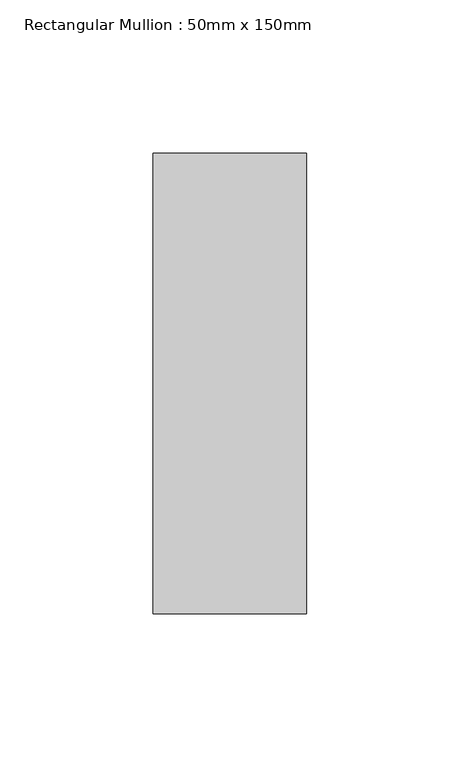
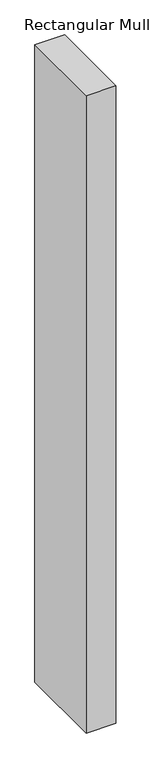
"""IFC4 building model written with IfcOpenShell, lengths in millimetres: member geometry, Rectangular Mullion : 50mm x 150mm."""

from ifc_helpers import new_model, si_unit, frame, origin, place, context, project, spatial, polyline, outline, extrude, source, transform, mapped, element, save


def rectangular_mullion_50mm_x_150mm_56029db9(model_context):
    return source(origin(), model_context, "Body", "SweptSolid", [
        extrude(outline(polyline([(0.0, 75.0), (0.0, -75.0), (-50.0, -75.0), (-50.0, 75.0), (0.0, 75.0)])), frame((0.0, 0.0, -1135.4902365), z_axis=(0.0, 0.0, 1.0), x_axis=(1.0, 0.0, 0.0)), (0.0, 0.0, 1.0), 1135.4902365),
    ])


if __name__ == "__main__":
    model = new_model("IFC4")
    model_context = context("Model", 3, world=origin())
    ifc_project = project(units=[si_unit("LENGTHUNIT", "METRE", prefix="MILLI")], contexts=[model_context])
    site = spatial("IfcSite", under=ifc_project)
    building = spatial("IfcBuilding", under=site)
    placement = place(None, origin())
    rectangular_mullion_50mm_x_150mm_shape = rectangular_mullion_50mm_x_150mm_56029db9(model_context)
    element("IfcMember", 1, ObjectType="Rectangular Mullion : 50mm x 150mm", at=placement, inside=building, context=model_context, shape_type="MappedRepresentation", body=[
        mapped(rectangular_mullion_50mm_x_150mm_shape, transform((0.0, 0.0, 0.0), x_axis=(1.0, 0.0, 0.0), y_axis=(0.0, 1.0, 0.0), z_axis=(0.0, 0.0, 1.0))),
    ])
    save(model, "model.ifc")
